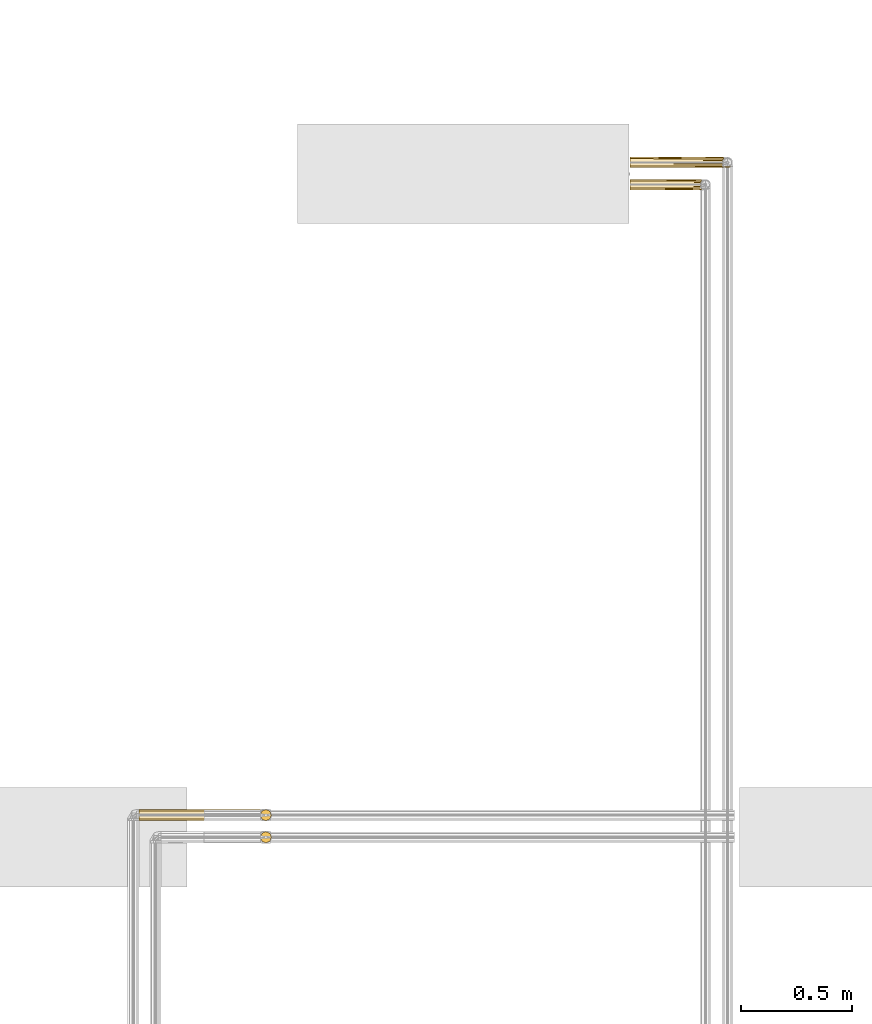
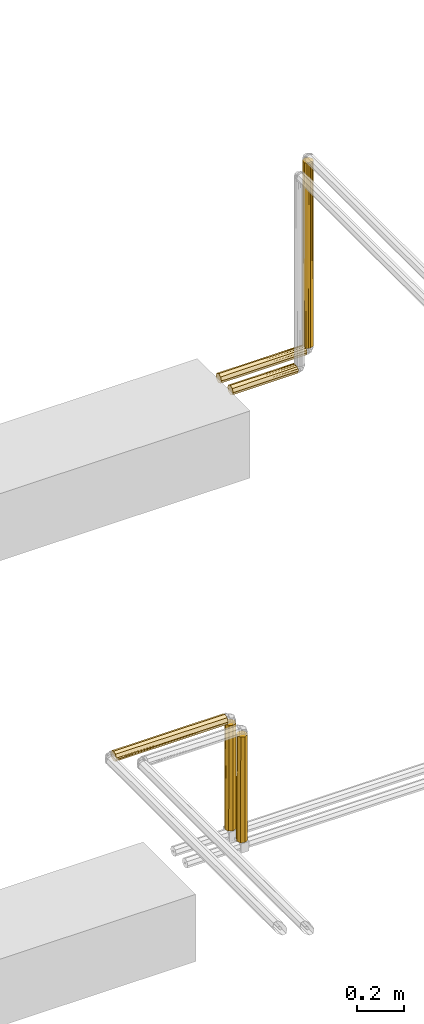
# One storey, part 211 of 652: 6 coverings.
"""IFC2X3 building model written with IfcOpenShell, lengths in millimetres."""

import ifcopenshell
import ifcopenshell.guid

model = None  # the IFC model being written
_history = None  # IfcOwnerHistory: only IFC2X3 demands one
_inside = {}  # id of a spatial element -> (the spatial element, [elements in it])
_under = {}  # id of a project, library or spatial element -> (it, [spatial elements below it])
_declared = {}  # id of a project -> (the project, [libraries it declares])
_typed = {}  # id of a type object -> (the type object, [elements of that type])
_made_of = {}  # id of a material, layer set ... -> (it, [elements and type objects made of it])


def new_model(schema):
    """Start an empty IFC model of exactly this schema.

    Asked for "IFC4X3", IfcOpenShell would pick the latest addendum, in which some entities
    have other attributes; the version numbers below select the first issue.
    IFC2X3 requires an IfcOwnerHistory on every rooted entity: one is made here for all.
    """
    global model, _history
    if schema == "IFC4X3":
        model = ifcopenshell.file(schema_version=(4, 3, 0, 0))
    else:
        model = ifcopenshell.file(schema=schema)
    _inside.clear()
    _under.clear()
    _declared.clear()
    _typed.clear()
    _made_of.clear()
    _history = None
    if model.schema == "IFC2X3":
        org = make("IfcOrganization", Name="unknown")
        user = make(
            "IfcPersonAndOrganization",
            ThePerson=make("IfcPerson", FamilyName="unknown"),
            TheOrganization=org,
        )
        app = make(
            "IfcApplication",
            ApplicationDeveloper=org,
            Version="unknown",
            ApplicationFullName="unknown",
            ApplicationIdentifier="unknown",
        )
        _history = make(
            "IfcOwnerHistory",
            OwningUser=user,
            OwningApplication=app,
            ChangeAction="ADDED",
            CreationDate=0,
        )
    return model


def make(cls, **values):
    """One entity of the class cls with the attributes given. An attribute that is None is left unset."""
    return model.create_entity(
        cls, **{name: value for name, value in values.items() if value is not None}
    )


def entity(cls, *values):
    """Any entity or typed value of the class cls, its attributes in the order of the schema. None: left unset."""
    e = model.create_entity(cls)
    for i, value in enumerate(values):
        if value is not None:
            e[i] = value
    return e


def rooted(cls, **values):
    """An entity with a GlobalId (a new one), such as an element, a storey or a relation."""
    return make(cls, GlobalId=ifcopenshell.guid.new(), OwnerHistory=_history, **values)


def si_unit(unit_type, name, prefix=None):
    """IfcSIUnit, for example si_unit("LENGTHUNIT", "METRE", prefix="MILLI")."""
    return make("IfcSIUnit", UnitType=unit_type, Prefix=prefix, Name=name)


def converted_unit(unit_type, name, factor, base, dimensions=None, offset=None):
    """IfcConversionBasedUnit, such as the inch: factor (a typed value) times the base unit."""
    return make(
        "IfcConversionBasedUnit"
        if offset is None
        else "IfcConversionBasedUnitWithOffset",
        ConversionOffset=offset,
        Dimensions=None
        if dimensions is None
        else entity("IfcDimensionalExponents", *dimensions),
        UnitType=unit_type,
        Name=name,
        ConversionFactor=make(
            "IfcMeasureWithUnit", ValueComponent=factor, UnitComponent=base
        ),
    )


def assignment(units):
    """IfcUnitAssignment: the units of a project."""
    return None if units is None else make("IfcUnitAssignment", Units=units)


def point(xyz):
    """IfcCartesianPoint."""
    return None if xyz is None else make("IfcCartesianPoint", Coordinates=xyz)


def direction(xyz):
    """IfcDirection."""
    return None if xyz is None else make("IfcDirection", DirectionRatios=xyz)


def frame(location, z_axis=None, x_axis=None):
    """IfcAxis2Placement3D, a coordinate frame: its origin and axes. An axis left out is left unset."""
    return make(
        "IfcAxis2Placement3D",
        Location=point(location),
        Axis=direction(z_axis),
        RefDirection=direction(x_axis),
    )


def origin():
    """The frame at (0, 0, 0) with its axes left unset."""
    return frame((0.0, 0.0, 0.0))


def place(relative_to, where):
    """IfcLocalPlacement: puts the frame where relative to a parent placement (None: the world)."""
    return make(
        "IfcLocalPlacement", PlacementRelTo=relative_to, RelativePlacement=where
    )


def context(
    kind, dimensions, precision=None, world=None, true_north=None, identifier=None
):
    """IfcGeometricRepresentationContext, for example the 3D "Model" context."""
    return make(
        "IfcGeometricRepresentationContext",
        ContextIdentifier=identifier,
        ContextType=kind,
        CoordinateSpaceDimension=dimensions,
        Precision=precision,
        WorldCoordinateSystem=world,
        TrueNorth=true_north,
    )


def subcontext(parent, identifier, kind, view, scale=None):
    """IfcGeometricRepresentationSubContext, for example "Body" below "Model"."""
    return make(
        "IfcGeometricRepresentationSubContext",
        ContextIdentifier=identifier,
        ContextType=kind,
        ParentContext=parent,
        TargetScale=scale,
        TargetView=view,
    )


def project(units=None, contexts=None):
    """IfcProject with its units and contexts."""
    return rooted(
        "IfcProject",
        Name="project",
        RepresentationContexts=contexts,
        UnitsInContext=assignment(units),
    )


def spatial(cls, under=None, at=None, **own):
    """A site, building, storey or space (cls), placed at a placement, below another one or the project."""
    s = rooted(cls, ObjectPlacement=at, **own)
    if under is not None:
        _under.setdefault(under.id(), (under, []))[1].append(s)
    return s


def faces_of(points, faces, orient=None, outer=None):
    """IfcFace entities. A face is a list of loops; a loop is a list of indices into points, from 0.

    orient and outer hold one flag for each loop. By default every Orientation is true, the
    first loop of a face is its IfcFaceOuterBound and the others are IfcFaceBound.
    """
    made = []
    for i, loops in enumerate(faces):
        bounds = []
        for j, loop in enumerate(loops):
            is_outer = j == 0 if outer is None else outer[i][j]
            bounds.append(
                make(
                    "IfcFaceOuterBound" if is_outer else "IfcFaceBound",
                    Bound=make("IfcPolyLoop", Polygon=[points[k] for k in loop]),
                    Orientation=True if orient is None else orient[i][j],
                )
            )
        made.append(make("IfcFace", Bounds=bounds))
    return made


def faceted_brep(points, faces, orient=None, outer=None, voids=None):
    """IfcFacetedBrep: a solid bounded by flat faces; with voids (closed shells), ...WithVoids."""
    shared = [point(p) for p in points]
    hull = make("IfcClosedShell", CfsFaces=faces_of(shared, faces, orient, outer))
    if voids is None:
        return make("IfcFacetedBrep", Outer=hull)
    return make(
        "IfcFacetedBrepWithVoids",
        Outer=hull,
        Voids=[
            make(cls, CfsFaces=faces_of(shared, fs, o, b)) for cls, fs, o, b in voids
        ],
    )


def shape(context_of_items, identifier, shape_type, items):
    """IfcShapeRepresentation: the items that make up one representation, for example the "Body"."""
    return make(
        "IfcShapeRepresentation",
        ContextOfItems=context_of_items,
        RepresentationIdentifier=identifier,
        RepresentationType=shape_type,
        Items=items,
    )


def material(Name=None, Category=None):
    """IfcMaterial."""
    return make("IfcMaterial", Name=Name, Category=Category)


def made_of(thing, what):
    """Note that an element or type object is made of a material, layer set ...; save() writes the relation."""
    if what is not None:
        _made_of.setdefault(what.id(), (what, []))[1].append(thing)
    return thing


def type_object(cls, material=None, **own):
    """A type object (cls), such as IfcWallType, which elements share."""
    return made_of(rooted(cls, **own), material)


def element(
    cls,
    number,
    at=None,
    inside=None,
    cuts=None,
    type_object=None,
    material=None,
    context=None,
    identifier="Body",
    shape_type=None,
    held_by="IfcProductDefinitionShape",
    body=None,
    shapes=None,
    **own,
):
    """One element of the class cls, such as IfcWall. Its Tag is "e" and its number.

    at: its placement. inside: the storey or other place that contains it. cuts: it is an
    opening in that element (IfcRelVoidsElement). A single representation is given by context,
    identifier, shape_type and body (its items); several are given by shapes. held_by: the class
    of the entity that holds the representations. save() writes the other relations.
    """
    e = rooted(cls, Tag="e%d" % number, ObjectPlacement=at, **own)
    if body is not None:
        shapes = [shape(context, identifier, shape_type, body)]
    if shapes is not None:
        e.Representation = make(held_by, Representations=shapes)
    if inside is not None:
        _inside.setdefault(inside.id(), (inside, []))[1].append(e)
    if cuts is not None:
        rooted(
            "IfcRelVoidsElement", RelatingBuildingElement=cuts, RelatedOpeningElement=e
        )
    if type_object is not None:
        _typed.setdefault(type_object.id(), (type_object, []))[1].append(e)
    return made_of(e, material)


def aggregate(whole, parts):
    """IfcRelAggregates: a whole, such as a stair, and the parts it consists of."""
    return rooted("IfcRelAggregates", RelatingObject=whole, RelatedObjects=parts)


def save(model, path):
    """Write the relations noted so far, then the file.

    IfcRelAggregates (storeys below a building ...), IfcRelContainedInSpatialStructure (elements
    in a storey), IfcRelDefinesByType, IfcRelAssociatesMaterial and IfcRelDeclares: one each for
    every whole, place, type object, material and project.
    """
    for whole, parts in _under.values():
        aggregate(whole, parts)
    for where, things in _inside.values():
        rooted(
            "IfcRelContainedInSpatialStructure",
            RelatedElements=things,
            RelatingStructure=where,
        )
    for kind, things in _typed.values():
        rooted("IfcRelDefinesByType", RelatedObjects=things, RelatingType=kind)
    for what, things in _made_of.values():
        rooted("IfcRelAssociatesMaterial", RelatedObjects=things, RelatingMaterial=what)
    for by, libraries in _declared.values():
        rooted("IfcRelDeclares", RelatingContext=by, RelatedDefinitions=libraries)
    model.write(path)


model = new_model("IFC2X3")

# Units and contexts
model_context = context("Model", 3, precision=0.01, world=frame((0.0, 0.0, 308426.39999999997)), true_north=direction((6.123233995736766e-17, 1.0)))
plan_context = context("Plan", 3, precision=0.01, world=frame((0.0, 0.0, 308426.39999999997)), true_north=direction((6.123233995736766e-17, 1.0)))
body_context = subcontext(model_context, "Body", "Model", "MODEL_VIEW")
ifc_project = project(units=[si_unit("LENGTHUNIT", "METRE", prefix="MILLI"), si_unit("AREAUNIT", "SQUARE_METRE"), si_unit("VOLUMEUNIT", "CUBIC_METRE"), converted_unit("PLANEANGLEUNIT", "DEGREE", entity("IfcPlaneAngleMeasure", 0.017453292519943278), si_unit("PLANEANGLEUNIT", "RADIAN"), dimensions=[0, 0, 0, 0, 0, 0, 0])], contexts=[model_context, plan_context])

# Site, building, storey
site_placement = place(None, origin())
site = spatial("IfcSite", under=ifc_project, at=site_placement, Name="Default", CompositionType="ELEMENT")
building_placement = place(site_placement, origin())
building = spatial("IfcBuilding", under=site, at=building_placement, CompositionType="ELEMENT")
storey_placement = place(building_placement, frame((0.0, 0.0, 1730.6999999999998)))
storey = spatial("IfcBuildingStorey", under=building, at=storey_placement, Name="EG_Produktion_FFB", CompositionType="ELEMENT", Elevation=1730.6999999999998)

# Coverings
ifc_material = material(Name="Dämmung - Armaflex-Schlauch")
covering_type = type_object("IfcCoveringType", Name="Rohrdämmung außen:Armaflex-Schlauch", PredefinedType="INSULATION")
covering_1_placement = place(storey_placement, frame((37855.68416089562, 78998.0547277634, 3326.9452722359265)))
element("IfcCovering", 1, at=covering_1_placement, inside=storey, type_object=covering_type, material=ifc_material, Name="Rohrdämmung außen:Armaflex-Schlauch", ObjectType="Rohrdämmung außen:Armaflex-Schlauch", PredefinedType="INSULATION", context=body_context, shape_type="Brep", body=[
    faceted_brep([(1.5952722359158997, 10.639444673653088, -7.535416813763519), (1.5952722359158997, 14.715901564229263, -6.050380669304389), (1.5952722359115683, 18.79235845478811, -4.565344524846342), (1.5952722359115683, 22.868815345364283, -3.080308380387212), (1.5952722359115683, 26.94527223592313, -1.595272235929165), (1.5952722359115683, 32.037667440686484, -3.704611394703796), (1.5952722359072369, 35.907850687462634, -5.307693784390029), (1.5952722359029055, 40.389139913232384, -7.16390455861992), (1.5952722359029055, 44.870429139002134, -9.02011533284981), (1.5952722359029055, 46.72663991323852, -13.501404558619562), (1.5952722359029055, 48.58285068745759, -17.982693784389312), (1.5952722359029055, 50.439061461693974, -22.463983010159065), (1.5952722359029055, 52.29527223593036, -26.945272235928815), (1.5952722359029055, 50.18593305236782, -32.03766750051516), (1.5952722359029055, 48.58285068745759, -35.90785068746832), (1.5952722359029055, 46.72663991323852, -40.38913991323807), (1.5952722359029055, 44.870429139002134, -44.870429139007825), (1.5952722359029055, 40.389139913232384, -46.72663991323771), (1.5952722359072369, 35.907850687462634, -48.582850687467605), (1.5952722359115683, 31.426561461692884, -50.43906146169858), (1.5952722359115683, 26.94527223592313, -52.295272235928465), (1.5952722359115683, 22.868815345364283, -50.8102360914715), (1.5952722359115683, 18.79235845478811, -49.32519994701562), (1.5952722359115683, 14.715901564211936, -47.840163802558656), (1.5952722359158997, 10.639444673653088, -46.355127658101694), (1.5952722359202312, 6.308858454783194, -38.84516070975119), (1.5952722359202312, 1.9782722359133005, -31.335193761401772), (1.5952722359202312, 1.9782722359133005, -22.555350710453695), (1.5952722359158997, 6.308858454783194, -15.04538376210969), (551.6612722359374, 22.55535071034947, -51.91227223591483), (551.6612722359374, 31.335193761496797, -51.91227223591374), (551.6612722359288, 38.84516070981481, -47.58168601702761), (551.6612722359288, 46.35512765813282, -43.2510997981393), (551.6612722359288, 48.50141331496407, -37.35949844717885), (551.6612722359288, 50.39834277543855, -32.15238534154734), (551.6612722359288, 52.295272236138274, -26.945272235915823), (551.6612722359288, 50.185933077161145, -21.85287703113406), (551.6612722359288, 48.07659391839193, -16.7604818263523), (551.6612722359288, 44.870429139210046, -9.020115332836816), (551.6612722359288, 40.38913991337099, -7.163904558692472), (551.6612722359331, 35.90785068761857, -5.307693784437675), (551.6612722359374, 31.426561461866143, -3.4514830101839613), (551.6612722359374, 26.945272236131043, -1.5952722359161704), (551.6612722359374, 22.46398301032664, -3.4514830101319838), (551.6612722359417, 17.98269378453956, -5.30769378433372), (551.6612722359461, 13.501404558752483, -7.163904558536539), (551.6612722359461, 9.020115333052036, -9.020115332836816), (551.6612722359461, 7.163904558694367, -13.501404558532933), (551.6612722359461, 5.307693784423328, -17.98269378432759), (551.6612722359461, 3.4514830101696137, -22.46398301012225), (551.6612722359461, 1.5952722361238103, -26.945272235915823), (551.6612722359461, 3.0803083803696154, -31.021729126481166), (551.6612722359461, 4.565344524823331, -35.09818601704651), (551.6612722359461, 6.050380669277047, -39.174642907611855), (551.6612722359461, 7.535416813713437, -43.251099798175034), (551.6612722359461, 15.045383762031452, -47.58168601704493), (551.3742037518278, 29.148570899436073, -52.199340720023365), (551.2782722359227, 26.945272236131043, -52.295272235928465), (551.3742037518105, 24.7419735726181, -52.199340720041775), (1.978272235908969, 1.5952722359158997, -26.945272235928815), (1.8823407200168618, 1.691203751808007, -29.148570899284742), (1.8823407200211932, 1.691203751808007, -24.74197357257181)], [[[0, 1, 2, 3, 4, 5, 6, 7, 8, 9, 10, 11, 12, 13, 14, 15, 16, 17, 18, 19, 20, 21, 22, 23, 24, 25, 26, 27, 28]], [[29, 30, 31, 32, 33, 34, 35, 36, 37, 38, 39, 40, 41, 42, 43, 44, 45, 46, 47, 48, 49, 50, 51, 52, 53, 54, 55]], [[15, 14, 33]], [[33, 14, 34]], [[34, 14, 13, 12]], [[56, 19, 30]], [[31, 30, 18]], [[33, 32, 15]], [[20, 56, 57]], [[31, 18, 17, 16]], [[19, 18, 30]], [[32, 16, 15]], [[31, 16, 32]], [[34, 12, 35]], [[19, 56, 20]], [[29, 22, 21]], [[58, 21, 20]], [[58, 29, 21]], [[23, 22, 55, 24]], [[24, 55, 54]], [[25, 54, 53, 52]], [[50, 59, 60]], [[26, 52, 51]], [[60, 26, 51]], [[54, 25, 24]], [[55, 22, 29]], [[20, 57, 58]], [[25, 52, 26]], [[60, 51, 50]], [[49, 48, 27]], [[28, 48, 47, 46]], [[1, 44, 2]], [[50, 61, 59]], [[4, 3, 42]], [[2, 43, 3]], [[42, 3, 43]], [[44, 1, 45]], [[45, 1, 0]], [[48, 28, 27]], [[28, 46, 0]], [[61, 49, 27]], [[49, 61, 50]], [[45, 0, 46]], [[43, 2, 44]], [[35, 12, 11, 10, 9, 8, 38, 37, 36]], [[7, 6, 5, 4, 42, 41, 40, 39, 38, 8]], [[27, 26, 60, 59, 61]], [[58, 57, 56, 30, 29]]]),
])
covering_2_placement = place(storey_placement, frame((38405.36716089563, 78898.05472776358, 2723.999000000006)))
element("IfcCovering", 2, at=covering_2_placement, inside=storey, type_object=covering_type, material=ifc_material, Name="Rohrdämmung außen:Armaflex-Schlauch", ObjectType="Rohrdämmung außen:Armaflex-Schlauch", PredefinedType="INSULATION", context=body_context, shape_type="Brep", body=[
    faceted_brep([(44.87042913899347, 9.020115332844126, 0.0), (40.38913991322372, 7.1639045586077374, 0.0), (35.90785068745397, 5.30769378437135, 0.0), (31.42656146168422, 3.4514830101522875, 0.0), (26.94527223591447, 1.5952722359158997, 0.0), (21.861822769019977, 3.7009059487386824, 0.0), (17.982693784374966, 5.30769378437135, 0.0), (13.501404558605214, 7.1639045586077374, 0.0), (9.020115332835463, 9.020115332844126, 0.0), (7.1639045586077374, 13.501404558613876, 0.0), (5.307693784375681, 17.982693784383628, 0.0), (3.4514830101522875, 22.46398301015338, 0.0), (1.5952722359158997, 26.94527223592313, 0.0), (3.4514830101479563, 31.426561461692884, 0.0), (5.307693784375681, 35.907850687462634, 0.0), (7.1639045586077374, 40.389139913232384, 0.0), (9.020115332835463, 44.870429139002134, 0.0), (13.501404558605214, 46.72663991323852, 0.0), (17.982693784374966, 48.58285068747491, 0.0), (22.463983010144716, 50.439061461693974, 0.0), (26.94527223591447, 52.29527223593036, 0.0), (32.02872164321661, 50.18963854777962, 0.0), (35.90785068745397, 48.58285068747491, 0.0), (40.38913991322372, 46.72663991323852, 0.0), (44.87042913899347, 44.870429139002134, 0.0), (46.7266399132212, 40.389139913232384, 0.0), (48.582850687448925, 35.907850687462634, 0.0), (50.43906146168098, 31.426561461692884, 0.0), (52.29527223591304, 26.94527223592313, 0.0), (50.18963854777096, 21.86182282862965, 0.0), (48.58285068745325, 17.982693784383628, 0.0), (46.7266399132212, 13.501404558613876, 0.0), (26.9452722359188, 1.5952722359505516, 551.0339999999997), (32.02872164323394, 3.7009059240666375, 551.0339999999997), (37.11217105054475, 5.806539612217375, 551.0339999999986), (44.87042913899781, 9.020115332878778, 551.0339999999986), (46.72663991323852, 13.501404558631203, 551.0339999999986), (48.58285068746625, 17.98269378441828, 551.0339999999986), (50.43906146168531, 22.46398301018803, 551.0339999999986), (52.295272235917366, 26.945272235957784, 551.0339999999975), (50.18963854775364, 32.02872164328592, 551.0339999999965), (48.0840048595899, 37.11217105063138, 551.0339999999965), (44.87042913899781, 44.87042913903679, 551.0339999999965), (40.38913991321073, 46.72663991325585, 551.0339999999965), (35.90785068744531, 48.58285068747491, 551.0339999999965), (31.42656146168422, 50.4390614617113, 551.0339999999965), (26.9452722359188, 52.295272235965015, 551.0339999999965), (21.747306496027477, 50.40167512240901, 551.0339999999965), (18.792358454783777, 49.32519994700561, 551.0339999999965), (14.715901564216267, 47.84016380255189, 551.0339999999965), (10.639444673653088, 46.355127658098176, 551.0339999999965), (6.308858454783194, 38.84516070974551, 551.0339999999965), (1.9782722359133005, 31.33519376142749, 551.0339999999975), (1.978272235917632, 22.555350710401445, 551.0339999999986), (6.308858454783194, 15.04538376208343, 551.0339999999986), (10.639444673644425, 7.535416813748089, 551.0339999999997), (16.549340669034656, 5.382466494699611, 551.0339999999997), (21.74730645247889, 3.4888693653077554, 551.0339999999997), (1.6912037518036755, 24.74197357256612, 550.7469315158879), (1.5952722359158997, 26.945272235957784, 550.650999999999), (1.691203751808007, 29.148570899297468, 550.7469315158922)], [[[0, 1, 2, 3, 4, 5, 6, 7, 8, 9, 10, 11, 12, 13, 14, 15, 16, 17, 18, 19, 20, 21, 22, 23, 24, 25, 26, 27, 28, 29, 30, 31]], [[32, 33, 34, 35, 36, 37, 38, 39, 40, 41, 42, 43, 44, 45, 46, 47, 48, 49, 50, 51, 52, 53, 54, 55, 56, 57]], [[7, 6, 56]], [[56, 6, 57]], [[57, 6, 5, 4]], [[58, 11, 53]], [[54, 53, 10]], [[56, 55, 7]], [[12, 58, 59]], [[54, 10, 9, 8]], [[11, 10, 53]], [[55, 8, 7]], [[54, 8, 55]], [[57, 4, 32]], [[11, 58, 12]], [[52, 14, 13]], [[49, 48, 18]], [[13, 60, 52]], [[14, 52, 51]], [[49, 18, 17]], [[46, 20, 19]], [[48, 19, 18]], [[17, 50, 49]], [[51, 16, 15, 14]], [[19, 48, 47, 46]], [[60, 12, 59]], [[16, 51, 50]], [[16, 50, 17]], [[12, 60, 13]], [[39, 28, 27, 26, 25, 24, 42, 41, 40]], [[23, 22, 21, 20, 46, 45, 44, 43, 42, 24]], [[32, 4, 3, 2, 1, 0, 35, 34, 33]], [[31, 30, 29, 28, 39, 38, 37, 36, 35, 0]], [[59, 58, 53, 52, 60]]]),
])
covering_3_placement = place(storey_placement, frame((38405.36716089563, 78998.05472776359, 2723.999000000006)))
element("IfcCovering", 3, at=covering_3_placement, inside=storey, type_object=covering_type, material=ifc_material, Name="Rohrdämmung außen:Armaflex-Schlauch", ObjectType="Rohrdämmung außen:Armaflex-Schlauch", PredefinedType="INSULATION", context=body_context, shape_type="Brep", body=[
    faceted_brep([(44.87042913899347, 9.020115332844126, 0.0), (40.38913991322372, 7.1639045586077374, 0.0), (35.90785068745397, 5.30769378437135, 0.0), (31.42656146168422, 3.4514830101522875, 0.0), (26.94527223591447, 1.5952722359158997, 0.0), (21.861822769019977, 3.7009059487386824, 0.0), (17.982693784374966, 5.30769378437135, 0.0), (13.501404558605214, 7.1639045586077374, 0.0), (9.020115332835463, 9.020115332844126, 0.0), (7.1639045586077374, 13.501404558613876, 0.0), (5.307693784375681, 17.982693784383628, 0.0), (3.4514830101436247, 22.46398301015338, 0.0), (1.5952722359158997, 26.94527223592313, 0.0), (3.4514830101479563, 31.426561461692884, 0.0), (5.30769378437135, 35.907850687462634, 0.0), (7.163904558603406, 40.389139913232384, 0.0), (9.020115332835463, 44.870429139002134, 0.0), (13.501404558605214, 46.72663991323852, 0.0), (17.982693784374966, 48.58285068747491, 0.0), (22.463983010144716, 50.439061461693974, 0.0), (26.94527223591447, 52.29527223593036, 0.0), (32.02872164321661, 50.18963854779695, 0.0), (35.90785068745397, 48.58285068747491, 0.0), (40.38913991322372, 46.72663991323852, 0.0), (44.87042913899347, 44.870429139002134, 0.0), (46.7266399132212, 40.389139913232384, 0.0), (48.58285068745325, 35.907850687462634, 0.0), (50.43906146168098, 31.426561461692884, 0.0), (52.29527223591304, 26.94527223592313, 0.0), (50.18963854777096, 21.86182282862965, 0.0), (48.58285068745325, 17.982693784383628, 0.0), (46.72663991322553, 13.501404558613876, 0.0), (1.9782722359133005, 31.335193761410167, 551.0340000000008), (1.978272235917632, 22.555350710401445, 551.0340000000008), (6.308858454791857, 15.045383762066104, 551.0339999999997), (10.639444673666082, 7.535416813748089, 551.0340000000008), (16.549340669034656, 5.382466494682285, 551.0340000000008), (21.74730645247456, 3.4888693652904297, 551.0340000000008), (26.9452722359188, 1.5952722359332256, 551.0340000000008), (32.02872164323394, 3.7009059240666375, 551.0340000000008), (37.11217105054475, 5.806539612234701, 551.0340000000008), (44.87042913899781, 9.020115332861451, 551.0340000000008), (46.72663991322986, 13.501404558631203, 551.0340000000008), (48.58285068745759, 17.982693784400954, 551.0340000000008), (50.43906146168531, 22.463983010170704, 551.0339999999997), (52.295272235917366, 26.945272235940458, 551.0339999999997), (50.18963854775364, 32.02872164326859, 551.0339999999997), (48.08400485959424, 37.11217105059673, 551.0339999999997), (44.87042913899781, 44.870429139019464, 551.0339999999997), (40.38913991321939, 46.72663991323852, 551.0339999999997), (35.90785068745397, 48.58285068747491, 551.0339999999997), (31.42656146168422, 50.439061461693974, 551.0339999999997), (26.9452722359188, 52.295272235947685, 551.0339999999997), (21.747306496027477, 50.40167512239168, 551.0339999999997), (18.792358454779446, 49.32519994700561, 551.0339999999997), (14.715901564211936, 47.84016380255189, 551.0339999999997), (10.639444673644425, 46.355127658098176, 551.0339999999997), (6.308858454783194, 38.84516070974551, 551.0340000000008), (1.691203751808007, 24.74197357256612, 550.7469315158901), (1.5952722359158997, 26.945272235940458, 550.6510000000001), (1.691203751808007, 29.148570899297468, 550.7469315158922)], [[[0, 1, 2, 3, 4, 5, 6, 7, 8, 9, 10, 11, 12, 13, 14, 15, 16, 17, 18, 19, 20, 21, 22, 23, 24, 25, 26, 27, 28, 29, 30, 31]], [[32, 33, 34, 35, 36, 37, 38, 39, 40, 41, 42, 43, 44, 45, 46, 47, 48, 49, 50, 51, 52, 53, 54, 55, 56, 57]], [[7, 6, 36]], [[36, 6, 37]], [[37, 6, 5, 4]], [[58, 11, 33]], [[34, 33, 10]], [[36, 35, 7]], [[12, 58, 59]], [[34, 10, 9, 8]], [[11, 10, 33]], [[35, 8, 7]], [[34, 8, 35]], [[37, 4, 38]], [[11, 58, 12]], [[32, 14, 13]], [[55, 54, 18]], [[13, 60, 32]], [[14, 32, 57]], [[55, 18, 17]], [[52, 20, 19]], [[54, 19, 18]], [[17, 56, 55]], [[57, 16, 15, 14]], [[19, 54, 53, 52]], [[60, 12, 59]], [[16, 57, 56]], [[16, 56, 17]], [[12, 60, 13]], [[45, 28, 27, 26, 25, 24, 48, 47, 46]], [[23, 22, 21, 20, 52, 51, 50, 49, 48, 24]], [[38, 4, 3, 2, 1, 0, 41, 40, 39]], [[31, 30, 29, 28, 45, 44, 43, 42, 41, 0]], [[59, 58, 33, 32, 60]]]),
])
covering_4_placement = place(storey_placement, frame((40080.0, 81852.02347776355, 2674.6422277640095)))
element("IfcCovering", 4, at=covering_4_placement, inside=storey, type_object=covering_type, material=ifc_material, Name="Rohrdämmung außen:Armaflex-Schlauch", ObjectType="Rohrdämmung außen:Armaflex-Schlauch", PredefinedType="INSULATION", context=body_context, shape_type="Brep", body=[
    faceted_brep([(322.049749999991, 9.78712898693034, 43.30802223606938), (322.0497499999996, 6.764379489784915, 39.267438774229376), (322.0497499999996, 3.7416299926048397, 35.22685531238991), (322.0497499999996, 2.6684511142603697, 30.292313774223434), (322.0497499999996, 1.5952722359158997, 25.357772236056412), (322.0497499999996, 3.3352410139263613, 21.157116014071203), (322.0497499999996, 5.075209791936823, 16.956459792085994), (322.04975000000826, 6.815178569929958, 12.755803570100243), (322.04975000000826, 8.555147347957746, 8.555147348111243), (322.04975000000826, 12.755803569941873, 6.81517857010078), (322.04975000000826, 16.956459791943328, 5.075209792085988), (322.04975000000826, 21.157116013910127, 3.3352410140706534), (322.04975000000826, 25.35777223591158, 1.5952722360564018), (322.04975000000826, 29.30466375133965, 3.230128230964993), (322.04975000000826, 33.759084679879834, 5.075209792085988), (322.04975000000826, 37.95974090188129, 6.81517857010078), (322.04975000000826, 42.160397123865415, 8.555147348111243), (322.04975000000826, 43.90036590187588, 12.755803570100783), (322.0497499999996, 45.64033467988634, 16.956459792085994), (322.0497499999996, 47.3803034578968, 21.157116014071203), (322.0497499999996, 49.12027223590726, 25.357772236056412), (322.0497499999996, 48.047093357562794, 30.292313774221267), (322.0497499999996, 46.97391447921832, 35.22685531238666), (322.0497499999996, 43.95116498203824, 39.26743877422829), (322.049749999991, 40.92841548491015, 43.30802223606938), (0.0, 37.95974090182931, 6.81517857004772), (0.0, 33.75908467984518, 5.075209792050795), (0.0, 29.55842845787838, 3.3352410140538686), (0.0, 25.35777223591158, 1.595272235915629), (0.0, 21.410880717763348, 3.230128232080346), (0.0, 17.463989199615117, 4.864984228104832), (0.0, 13.00956827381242, 6.710065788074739), (0.0, 8.555147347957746, 8.55514734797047), (0.0, 6.8151785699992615, 12.755803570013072), (0.0, 5.075209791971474, 16.956459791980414), (0.0, 3.335241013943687, 21.157116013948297), (0.0, 1.5952722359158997, 25.35777223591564), (0.0, 3.2301282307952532, 29.304663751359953), (0.0, 5.075209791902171, 33.75908467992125), (0.0, 6.8151785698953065, 37.95974090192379), (0.0, 8.555147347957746, 42.16039712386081), (0.0, 12.755803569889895, 43.900365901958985), (0.0, 16.956459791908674, 45.640334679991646), (0.0, 21.157116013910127, 47.38030345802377), (0.0, 25.35777223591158, 49.12027223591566), (0.0, 29.558428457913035, 47.38030345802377), (0.0, 33.75908467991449, 45.640334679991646), (0.0, 37.959740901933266, 43.900365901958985), (0.0, 42.160397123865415, 42.16039712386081), (0.0, 43.900365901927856, 37.959740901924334), (0.0, 45.64033467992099, 33.75908467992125), (0.0, 47.380303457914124, 29.55842845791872), (0.0, 49.12027223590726, 25.35777223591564), (0.0, 47.48541624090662, 21.410880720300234), (0.0, 45.85056024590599, 17.463989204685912), (0.0, 44.00547868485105, 13.00956827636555), (0.0, 42.160397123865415, 8.55514734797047), (319.8938416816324, 37.29811477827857, 45.46393055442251), (317.73793336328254, 33.66781407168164, 47.619838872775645), (316.98771668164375, 29.51279315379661, 48.370055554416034), (316.237500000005, 25.35777223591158, 49.12027223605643), (316.98771668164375, 21.20275131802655, 48.370055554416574), (319.8938416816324, 13.417429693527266, 45.46393055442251), (317.73793336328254, 17.047730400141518, 47.619838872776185)], [[[0, 1, 2, 3, 4, 5, 6, 7, 8, 9, 10, 11, 12, 13, 14, 15, 16, 17, 18, 19, 20, 21, 22, 23, 24]], [[25, 26, 27, 28, 29, 30, 31, 32, 33, 34, 35, 36, 37, 38, 39, 40, 41, 42, 43, 44, 45, 46, 47, 48, 49, 50, 51, 52, 53, 54, 55, 56]], [[34, 33, 32, 8, 7, 6, 5, 4, 36, 35]], [[30, 29, 28, 12, 11, 10, 9, 8, 32, 31]], [[13, 12, 28, 27, 26, 25, 56, 16, 15, 14]], [[16, 56, 55, 54, 53, 52, 20, 19, 18, 17]], [[23, 49, 48]], [[20, 51, 21]], [[57, 24, 47]], [[50, 22, 21]], [[50, 49, 22]], [[52, 51, 20]], [[24, 48, 47]], [[58, 46, 45]], [[21, 51, 50]], [[57, 46, 58]], [[22, 49, 23]], [[59, 58, 45]], [[46, 57, 47]], [[48, 24, 23]], [[44, 59, 45]], [[60, 59, 44]], [[44, 61, 60]], [[39, 38, 2]], [[61, 44, 43]], [[0, 41, 40]], [[62, 42, 41]], [[40, 1, 0]], [[38, 3, 2]], [[62, 63, 42]], [[42, 63, 43]], [[37, 4, 3]], [[41, 0, 62]], [[39, 2, 1]], [[1, 40, 39]], [[43, 63, 61]], [[3, 38, 37]], [[37, 36, 4]], [[61, 63, 62, 0, 24, 57, 58, 59, 60]]]),
])
covering_5_placement = place(storey_placement, frame((40080.0, 81952.02347776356, 2674.642227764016)))
element("IfcCovering", 5, at=covering_5_placement, inside=storey, type_object=covering_type, material=ifc_material, Name="Rohrdämmung außen:Armaflex-Schlauch", ObjectType="Rohrdämmung außen:Armaflex-Schlauch", PredefinedType="INSULATION", context=body_context, shape_type="Brep", body=[
    faceted_brep([(422.0497499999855, 9.78712898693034, 43.308022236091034), (422.0497499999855, 6.764379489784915, 39.26743877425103), (422.0497499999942, 3.7416299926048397, 35.226855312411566), (422.0497499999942, 2.6684511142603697, 30.29231377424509), (422.0497499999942, 1.5952722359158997, 25.35777223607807), (422.04975000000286, 3.3352410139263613, 21.15711601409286), (422.04975000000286, 5.075209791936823, 16.95645979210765), (422.04975000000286, 6.81517856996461, 12.755803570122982), (422.04975000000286, 8.555147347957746, 8.5551473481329), (422.04975000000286, 12.755803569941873, 6.815178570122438), (422.04975000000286, 16.956459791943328, 5.075209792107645), (422.04975000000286, 21.157116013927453, 3.335241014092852), (422.04975000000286, 25.35777223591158, 1.5952722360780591), (422.04975000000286, 28.369491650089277, 2.8427672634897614), (422.04975000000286, 33.759084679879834, 5.075209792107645), (422.04975000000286, 37.95974090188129, 6.815178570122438), (422.04975000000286, 42.160397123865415, 8.5551473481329), (422.04975000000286, 43.90036590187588, 12.75580357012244), (422.04975000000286, 45.64033467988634, 16.95645979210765), (422.0497499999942, 47.3803034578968, 21.15711601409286), (422.0497499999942, 49.12027223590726, 25.35777223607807), (422.0497499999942, 48.047093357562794, 30.29231377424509), (422.0497499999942, 46.97391447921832, 35.226855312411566), (422.0497499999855, 43.95116498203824, 39.26743877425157), (422.0497499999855, 40.928415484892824, 43.308022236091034), (0.0, 37.95974090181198, 6.815178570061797), (0.0, 33.75908467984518, 5.075209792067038), (0.0, 29.55842845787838, 3.3352410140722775), (0.0, 25.35777223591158, 1.595272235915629), (0.0, 19.334333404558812, 4.090262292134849), (0.0, 13.94474037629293, 6.322704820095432), (0.0, 8.555147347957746, 8.55514734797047), (0.0, 6.815178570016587, 12.755803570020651), (0.0, 5.0752097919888, 16.95645979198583), (0.0, 3.335241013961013, 21.157116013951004), (0.0, 1.5952722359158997, 25.35777223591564), (0.0, 2.842767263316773, 28.36949165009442), (0.0, 5.075209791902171, 33.75908467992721), (0.0, 6.8151785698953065, 37.959740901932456), (0.0, 8.555147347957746, 42.16039712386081), (0.0, 12.755803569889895, 43.90036590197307), (0.0, 16.956459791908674, 45.64033468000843), (0.0, 21.157116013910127, 47.38030345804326), (0.0, 25.35777223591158, 49.12027223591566), (0.0, 29.558428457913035, 47.38030345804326), (0.0, 33.75908467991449, 45.64033468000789), (0.0, 37.95974090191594, 43.90036590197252), (0.0, 42.160397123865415, 42.16039712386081), (0.0, 43.900365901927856, 37.959740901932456), (0.0, 45.64033467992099, 33.759084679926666), (0.0, 47.380303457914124, 29.558428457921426), (0.0, 49.12027223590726, 25.35777223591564), (0.0, 46.625282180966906, 19.334333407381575), (0.0, 44.39283965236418, 13.944740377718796), (0.0, 42.160397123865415, 8.55514734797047), (419.89384168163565, 37.2981147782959, 45.46393055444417), (417.7379333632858, 33.66781407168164, 47.6198388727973), (416.987716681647, 29.51279315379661, 48.37005555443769), (416.23749999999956, 25.35777223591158, 49.12027223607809), (416.98771668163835, 21.20275131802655, 48.37005555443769), (419.89384168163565, 13.417429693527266, 45.46393055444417), (417.7379333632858, 17.047730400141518, 47.61983887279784)], [[[0, 1, 2, 3, 4, 5, 6, 7, 8, 9, 10, 11, 12, 13, 14, 15, 16, 17, 18, 19, 20, 21, 22, 23, 24]], [[25, 26, 27, 28, 29, 30, 31, 32, 33, 34, 35, 36, 37, 38, 39, 40, 41, 42, 43, 44, 45, 46, 47, 48, 49, 50, 51, 52, 53, 54]], [[33, 32, 31, 8, 7, 6, 5, 4, 35, 34]], [[29, 28, 12, 11, 10, 9, 8, 31, 30]], [[26, 25, 54, 16, 15, 14, 13, 12, 28, 27]], [[16, 54, 53, 52, 51, 20, 19, 18, 17]], [[23, 48, 47]], [[20, 50, 21]], [[55, 24, 46]], [[49, 22, 21]], [[49, 48, 22]], [[51, 50, 20]], [[24, 47, 46]], [[56, 45, 44]], [[21, 50, 49]], [[55, 45, 56]], [[22, 48, 23]], [[57, 56, 44]], [[45, 55, 46]], [[47, 24, 23]], [[43, 57, 44]], [[58, 57, 43]], [[43, 59, 58]], [[38, 37, 2]], [[59, 43, 42]], [[0, 40, 39]], [[60, 41, 40]], [[39, 1, 0]], [[37, 3, 2]], [[60, 61, 41]], [[41, 61, 42]], [[36, 4, 3]], [[40, 0, 60]], [[38, 2, 1]], [[1, 39, 38]], [[42, 61, 59]], [[3, 37, 36]], [[36, 35, 4]], [[59, 61, 60, 0, 24, 55, 56, 57, 58]]]),
])
covering_6_placement = place(storey_placement, frame((40494.642227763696, 81952.02347776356, 2716.3549777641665)))
element("IfcCovering", 6, at=covering_6_placement, inside=storey, type_object=covering_type, material=ifc_material, Name="Rohrdämmung außen:Armaflex-Schlauch", ObjectType="Rohrdämmung außen:Armaflex-Schlauch", PredefinedType="INSULATION", context=body_context, shape_type="Brep", body=[
    faceted_brep([(7.407522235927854, 9.787128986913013, 1.5952722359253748), (7.407522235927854, 40.92841548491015, 1.5952722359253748), (11.448105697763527, 43.951164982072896, 1.5952722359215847), (15.488689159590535, 46.97391447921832, 1.5952722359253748), (20.42323069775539, 48.047093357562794, 1.5952722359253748), (25.357772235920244, 49.12027223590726, 1.5952722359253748), (30.631482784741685, 46.9358298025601, 1.5952722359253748), (33.759084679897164, 45.64033467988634, 1.5952722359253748), (37.95974090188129, 43.90036590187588, 1.5952722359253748), (42.160397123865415, 42.160397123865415, 1.5952722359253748), (43.90036590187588, 37.95974090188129, 1.5952722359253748), (45.64033467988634, 33.759084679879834, 1.5952722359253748), (47.38030345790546, 29.558428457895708, 1.5952722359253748), (49.12027223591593, 25.35777223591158, 1.5952722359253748), (47.38030345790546, 21.157116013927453, 1.5952722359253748), (45.64033467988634, 16.956459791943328, 1.5952722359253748), (43.90036590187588, 12.755803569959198, 1.5952722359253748), (42.160397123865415, 8.555147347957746, 1.5952722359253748), (37.95974090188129, 6.815178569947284, 1.5952722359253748), (33.759084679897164, 5.075209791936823, 1.5952722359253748), (29.55842845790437, 3.335241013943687, 1.5952722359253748), (25.357772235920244, 1.5952722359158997, 1.5952722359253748), (20.42323069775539, 2.6684511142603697, 1.5952722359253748), (15.488689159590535, 3.7416299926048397, 1.5952722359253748), (11.448105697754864, 6.764379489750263, 1.5952722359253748), (9.78712898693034, 7.407522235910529, 965.694772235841), (40.92841548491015, 7.407522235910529, 965.694772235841), (43.951164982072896, 11.44810569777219, 965.6947722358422), (46.973914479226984, 15.488689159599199, 965.694772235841), (48.047093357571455, 20.42323069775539, 965.694772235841), (49.12027223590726, 25.35777223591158, 965.694772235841), (46.9358298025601, 30.631482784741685, 965.694772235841), (44.75138736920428, 35.90519333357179, 965.694772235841), (42.160397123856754, 42.160397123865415, 965.694772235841), (37.95974090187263, 43.90036590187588, 965.694772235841), (33.759084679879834, 45.64033467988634, 965.694772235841), (29.558428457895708, 47.3803034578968, 965.694772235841), (25.35777223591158, 49.12027223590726, 965.694772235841), (20.08406168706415, 46.93582980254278, 965.694772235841), (16.956459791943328, 45.64033467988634, 965.694772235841), (12.755803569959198, 43.90036590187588, 965.694772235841), (8.55514734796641, 42.160397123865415, 965.694772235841), (6.81517856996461, 37.95974090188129, 965.694772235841), (5.075209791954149, 33.759084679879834, 965.694772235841), (3.335241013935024, 29.558428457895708, 965.694772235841), (1.5952722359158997, 25.35777223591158, 965.694772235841), (2.6684511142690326, 20.42323069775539, 965.694772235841), (3.7416299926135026, 15.488689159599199, 965.694772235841), (6.764379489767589, 11.448105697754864, 965.694772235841), (33.66781407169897, 3.095705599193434, 961.3829555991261), (37.29811477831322, 5.251613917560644, 963.5388639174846), (29.512793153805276, 2.345488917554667, 960.6327389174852), (25.35777223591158, 1.5952722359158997, 959.8825222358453), (13.417429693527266, 5.251613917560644, 963.5388639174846), (17.047730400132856, 3.095705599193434, 961.3829555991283), (19.62397520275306, 2.630547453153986, 960.9177974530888), (1.5952722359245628, 25.35777223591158, 7.407522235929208), (2.3454889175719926, 21.20275131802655, 6.657305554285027), (3.09570559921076, 17.04773040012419, 5.907088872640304), (5.2516139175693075, 13.41742969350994, 3.7511805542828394), (2.3454889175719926, 29.51279315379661, 6.6573055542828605), (3.09570559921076, 33.66781407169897, 5.907088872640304), (5.25161391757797, 37.29811477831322, 3.751180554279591)], [[[0, 1, 2, 3, 4, 5, 6, 7, 8, 9, 10, 11, 12, 13, 14, 15, 16, 17, 18, 19, 20, 21, 22, 23, 24]], [[25, 26, 27, 28, 29, 30, 31, 32, 33, 34, 35, 36, 37, 38, 39, 40, 41, 42, 43, 44, 45, 46, 47, 48]], [[30, 14, 13]], [[19, 49, 20]], [[14, 30, 29]], [[29, 15, 14]], [[26, 17, 27]], [[18, 26, 50]], [[50, 49, 19]], [[51, 52, 21]], [[28, 27, 16]], [[27, 17, 16]], [[28, 16, 15]], [[20, 49, 51]], [[17, 26, 18]], [[29, 28, 15]], [[50, 19, 18]], [[51, 21, 20]], [[53, 25, 24]], [[54, 22, 52, 55]], [[22, 54, 23]], [[52, 22, 21]], [[53, 24, 23]], [[45, 56, 57]], [[46, 58, 47]], [[23, 54, 53]], [[59, 0, 48]], [[57, 58, 46]], [[47, 58, 59]], [[25, 0, 24]], [[47, 59, 48]], [[0, 25, 48]], [[45, 57, 46]], [[45, 60, 56]], [[4, 39, 38, 37]], [[60, 45, 44]], [[61, 43, 62]], [[2, 41, 40]], [[41, 2, 1]], [[39, 4, 3]], [[1, 42, 41]], [[43, 61, 44]], [[1, 62, 42]], [[40, 3, 2]], [[40, 39, 3]], [[44, 61, 60]], [[37, 5, 4]], [[62, 43, 42]], [[30, 13, 12, 11, 10, 9, 33, 32, 31]], [[8, 7, 6, 5, 37, 36, 35, 34, 33, 9]], [[60, 61, 62, 1, 0, 59, 58, 57, 56]], [[49, 50, 26, 25, 53, 54, 55, 52, 51]]]),
])

save(model, "model.ifc")
